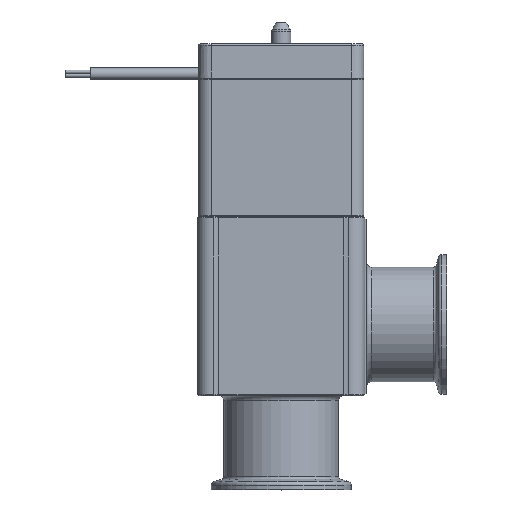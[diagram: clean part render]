
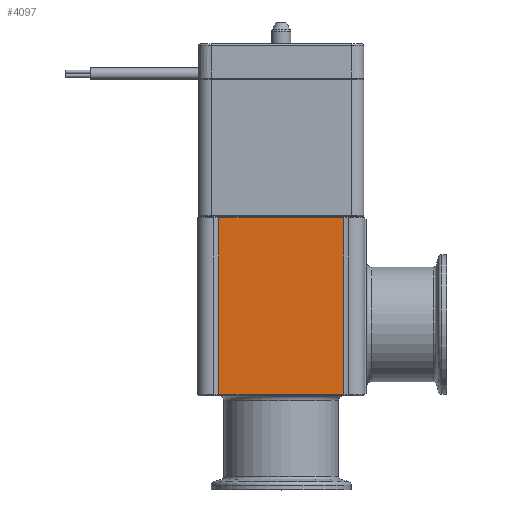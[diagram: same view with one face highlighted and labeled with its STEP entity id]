
A CAD part, top view. The second image highlights one B-rep face of the part: STEP entity #4097.
In plain terms, the highlighted planar face has unit normal (0, 0, 1).
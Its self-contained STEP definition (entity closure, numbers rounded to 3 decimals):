
#1538=LINE('',#15219,#2321);
#1539=LINE('',#15222,#2322);
#1540=LINE('',#15224,#2323);
#1541=LINE('',#15226,#2324);
#2321=VECTOR('',#12411,1.);
#2322=VECTOR('',#12412,1.);
#2323=VECTOR('',#12413,1.);
#2324=VECTOR('',#12414,1.);
#4097=ADVANCED_FACE('',(#4934),#4630,.T.);
#4630=PLANE('',#11227);
#4934=FACE_OUTER_BOUND('',#5418,.T.);
#5418=EDGE_LOOP('',(#6336,#6337,#6338,#6339));
#6336=ORIENTED_EDGE('',*,*,#9592,.T.);
#6337=ORIENTED_EDGE('',*,*,#9593,.T.);
#6338=ORIENTED_EDGE('',*,*,#9594,.T.);
#6339=ORIENTED_EDGE('',*,*,#9595,.T.);
#8691=VERTEX_POINT('',#15220);
#8692=VERTEX_POINT('',#15221);
#8693=VERTEX_POINT('',#15223);
#8694=VERTEX_POINT('',#15225);
#9592=EDGE_CURVE('',#8691,#8692,#1538,.T.);
#9593=EDGE_CURVE('',#8692,#8693,#1539,.T.);
#9594=EDGE_CURVE('',#8693,#8694,#1540,.T.);
#9595=EDGE_CURVE('',#8694,#8691,#1541,.T.);
#11227=AXIS2_PLACEMENT_3D('',#15227,#12415,#12416);
#12411=DIRECTION('',(0.,1.,0.));
#12412=DIRECTION('',(-1.,0.,0.));
#12413=DIRECTION('',(0.,-1.,0.));
#12414=DIRECTION('',(1.,0.,0.));
#12415=DIRECTION('',(0.,0.,1.));
#12416=DIRECTION('',(1.,0.,0.));
#15219=CARTESIAN_POINT('',(24.485,104.2,32.5));
#15220=CARTESIAN_POINT('',(24.485,34.4,32.5));
#15221=CARTESIAN_POINT('',(24.485,103.8,32.5));
#15222=CARTESIAN_POINT('',(-24.485,103.8,32.5));
#15223=CARTESIAN_POINT('',(-24.485,103.8,32.5));
#15224=CARTESIAN_POINT('',(-24.485,34.,32.5));
#15225=CARTESIAN_POINT('',(-24.485,34.4,32.5));
#15226=CARTESIAN_POINT('',(24.485,34.4,32.5));
#15227=CARTESIAN_POINT('',(-25.742,33.,32.5));
